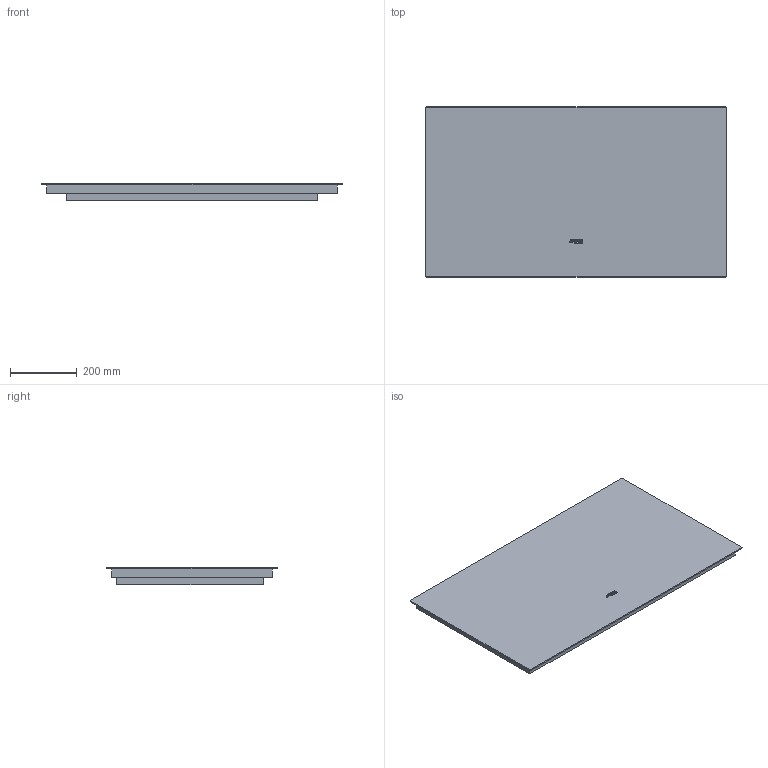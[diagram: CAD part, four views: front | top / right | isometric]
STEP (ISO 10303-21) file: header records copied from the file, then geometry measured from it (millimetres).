
FILE_DESCRIPTION(('CATIA V5 STEP'),'2;1');
FILE_NAME('Q:\Work\LeyhBjo\Picture Models\180206_Eftimie\949594446\949594446_SI2M7953D.stp','2018-03-16T07:20:41+00:00',('none'),('Electrolux'),'CATIA Version 5-6 Release 2014 SP5','CATIA V5 STEP AP203','none');
FILE_SCHEMA(('CONFIG_CONTROL_DESIGN'));
Length unit declared in the file: millimetre
Products named in the file (2): M0192892; M0047583
Assembly tree (3 placements, depth 3):
  M0192892
    M0047583
      #65
    #9084
Bounding box: 899.99 x 510 x 51.3 mm (x, y, z)
Volume: 19430251 mm3; surface area: 1883347 mm2
Topology: 2 solids, 2 shells, 288 faces, 788 edges, 524 vertices
Faces by surface type: extrusion 151, plane 129, revolution 4, cylinder 4
Entity records: 9704 total; most frequent: CARTESIAN_POINT 3163, ORIENTED_EDGE 1568, DIRECTION 790, EDGE_CURVE 784, VECTOR 607, VERTEX_POINT 522, B_SPLINE_CURVE_WITH_KNOTS 472, LINE 456
